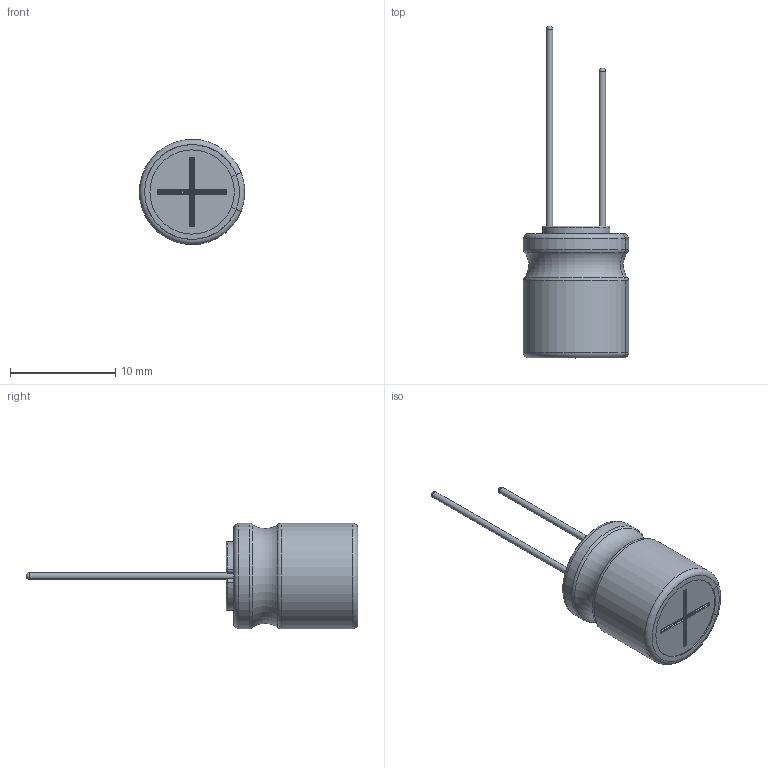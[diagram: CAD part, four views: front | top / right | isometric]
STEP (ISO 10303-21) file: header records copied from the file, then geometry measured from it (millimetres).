
FILE_DESCRIPTION(/* description */ (''),/* implementation_level */ '2;1');
FILE_NAME(/* name */ '10x12.5_Lead.stp',/* time_stamp */ '2017-09-05T14:05:12+09:00',/* author */ (''),/* organization */ (''),/* preprocessor_version */ 'ST-DEVELOPER v16',/* originating_system */ 'SIEMENS PLM Software NX 11.0',/* authorisation */ '');
FILE_SCHEMA (('AUTOMOTIVE_DESIGN { 1 0 10303 214 3 1 1 1 }'));
Length unit declared in the file: millimetre
Products named in the file (1): 10x12.5_Lead_0
Bounding box: 9.99 x 31.5 x 10 mm (x, y, z)
Volume: 920.7 mm3; surface area: 1406.5 mm2
Topology: 3 solids, 3 shells, 115 faces, 288 edges, 181 vertices
Faces by surface type: cylinder 44, torus 33, plane 28, sphere 6, bspline 4
Full cylindrical faces by diameter (mm): 0.6 x2, 9.8 x2
Entity records: 4020 total; most frequent: CARTESIAN_POINT 680, DIRECTION 664, ORIENTED_EDGE 544, AXIS2_PLACEMENT_3D 280, EDGE_CURVE 272, VERTEX_POINT 176, CIRCLE 160, EDGE_LOOP 128
